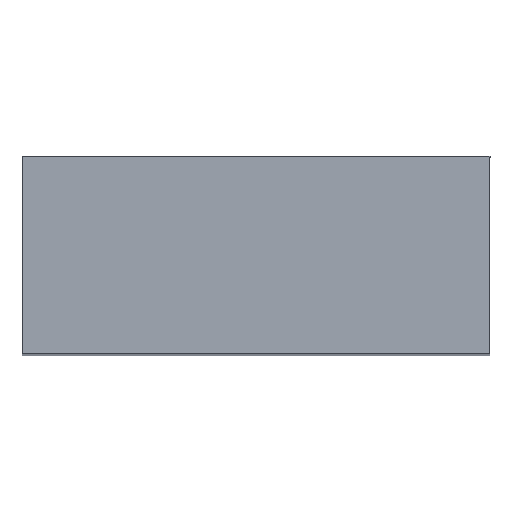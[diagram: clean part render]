
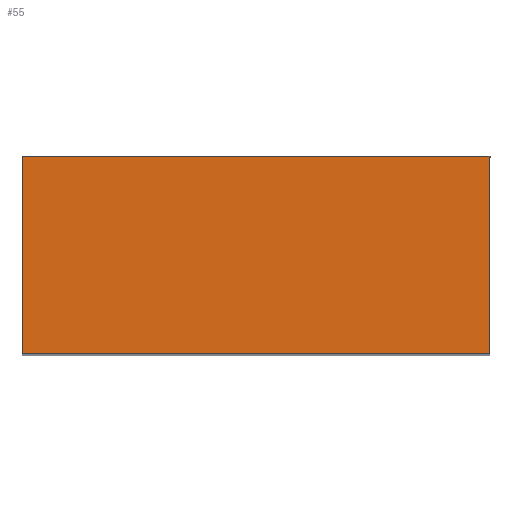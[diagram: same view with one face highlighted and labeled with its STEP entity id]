
A CAD part, top view. The second image highlights one B-rep face of the part: STEP entity #55.
In plain terms, the highlighted planar face has unit normal (0, 0, 1).
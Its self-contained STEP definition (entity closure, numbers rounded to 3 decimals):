
#2 = AXIS2_PLACEMENT_3D ( 'NONE', #314, #353, #526 ) ;
#6 = EDGE_CURVE ( 'NONE', #237, #103, #318, .T. ) ;
#15 = EDGE_CURVE ( 'NONE', #445, #237, #439, .T. ) ;
#16 = CARTESIAN_POINT ( 'NONE',  ( -76., 78., 98. ) ) ;
#34 = DIRECTION ( 'NONE',  ( 0., -1., 0. ) ) ;
#50 = VECTOR ( 'NONE', #474, 1000. ) ;
#55 = ADVANCED_FACE ( 'NONE', ( #152 ), #358, .T. ) ;
#72 = CARTESIAN_POINT ( 'NONE',  ( -76., 62., 98. ) ) ;
#81 = VECTOR ( 'NONE', #532, 1000. ) ;
#103 = VERTEX_POINT ( 'NONE', #324 ) ;
#113 = CARTESIAN_POINT ( 'NONE',  ( 0., 62., 98. ) ) ;
#131 = EDGE_CURVE ( 'NONE', #199, #445, #490, .T. ) ;
#152 = FACE_OUTER_BOUND ( 'NONE', #161, .T. ) ;
#161 = EDGE_LOOP ( 'NONE', ( #489, #321, #205, #284 ) ) ;
#199 = VERTEX_POINT ( 'NONE', #483 ) ;
#202 = CARTESIAN_POINT ( 'NONE',  ( -76., 46., 98. ) ) ;
#205 = ORIENTED_EDGE ( 'NONE', *, *, #15, .T. ) ;
#234 = EDGE_CURVE ( 'NONE', #103, #199, #435, .T. ) ;
#237 = VERTEX_POINT ( 'NONE', #202 ) ;
#275 = CARTESIAN_POINT ( 'NONE',  ( -38., 78., 98. ) ) ;
#284 = ORIENTED_EDGE ( 'NONE', *, *, #6, .T. ) ;
#300 = VECTOR ( 'NONE', #443, 1000. ) ;
#314 = CARTESIAN_POINT ( 'NONE',  ( -38., 62., 98. ) ) ;
#318 = LINE ( 'NONE', #481, #300 ) ;
#321 = ORIENTED_EDGE ( 'NONE', *, *, #131, .T. ) ;
#324 = CARTESIAN_POINT ( 'NONE',  ( 0., 46., 98. ) ) ;
#353 = DIRECTION ( 'NONE',  ( 0., 0., 1. ) ) ;
#358 = PLANE ( 'NONE',  #2 ) ;
#371 = VECTOR ( 'NONE', #34, 1000. ) ;
#435 = LINE ( 'NONE', #113, #81 ) ;
#439 = LINE ( 'NONE', #72, #371 ) ;
#443 = DIRECTION ( 'NONE',  ( 1., 0., 0. ) ) ;
#445 = VERTEX_POINT ( 'NONE', #16 ) ;
#474 = DIRECTION ( 'NONE',  ( -1., 0., 0. ) ) ;
#481 = CARTESIAN_POINT ( 'NONE',  ( -38., 46., 98. ) ) ;
#483 = CARTESIAN_POINT ( 'NONE',  ( 0., 78., 98. ) ) ;
#489 = ORIENTED_EDGE ( 'NONE', *, *, #234, .T. ) ;
#490 = LINE ( 'NONE', #275, #50 ) ;
#526 = DIRECTION ( 'NONE',  ( 1., 0., 0. ) ) ;
#532 = DIRECTION ( 'NONE',  ( 0., 1., 0. ) ) ;
